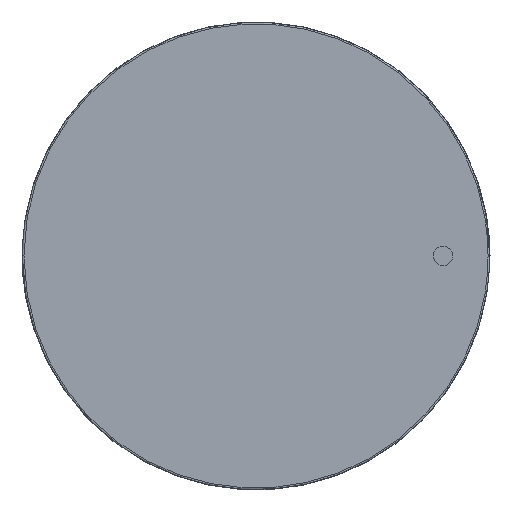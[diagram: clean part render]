
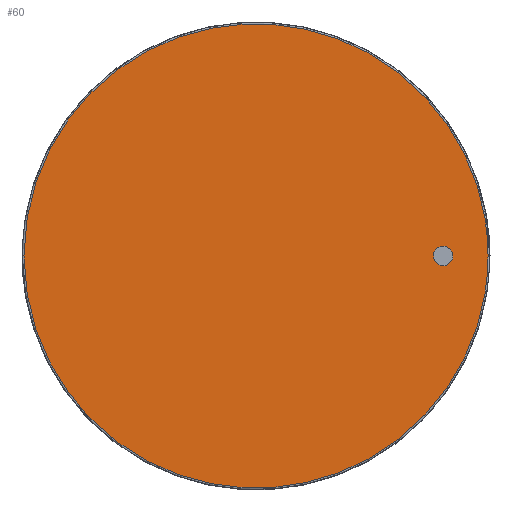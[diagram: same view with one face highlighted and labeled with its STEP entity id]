
A CAD part, top view. The second image highlights one B-rep face of the part: STEP entity #60.
In plain terms, the highlighted planar face has unit normal (0, 0, 1).
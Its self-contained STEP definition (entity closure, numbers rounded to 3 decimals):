
#15=FACE_BOUND($,#132,.T.);
#60=ADVANCED_FACE($,(#94,#15),#400,.T.);
#94=FACE_OUTER_BOUND($,#131,.T.);
#131=EDGE_LOOP($,(#228,#229));
#132=EDGE_LOOP($,(#230,#231));
#228=ORIENTED_EDGE($,*,*,#324,.T.);
#229=ORIENTED_EDGE($,*,*,#313,.F.);
#230=ORIENTED_EDGE($,*,*,#325,.T.);
#231=ORIENTED_EDGE($,*,*,#316,.F.);
#313=EDGE_CURVE($,#372,#373,#461,.T.);
#316=EDGE_CURVE($,#374,#375,#464,.T.);
#324=EDGE_CURVE($,#372,#373,#472,.T.);
#325=EDGE_CURVE($,#374,#375,#473,.T.);
#372=VERTEX_POINT($,#1224);
#373=VERTEX_POINT($,#1225);
#374=VERTEX_POINT($,#1226);
#375=VERTEX_POINT($,#1227);
#400=PLANE($,#588);
#461=(
BOUNDED_CURVE()
B_SPLINE_CURVE(2,(#1081,#1082,#1083,#1084,#1085),.UNSPECIFIED.,.F.,.F.)
B_SPLINE_CURVE_WITH_KNOTS((3,2,3),(-467.329,-350.497,-233.665),
.UNSPECIFIED.)
CURVE()
GEOMETRIC_REPRESENTATION_ITEM()
RATIONAL_B_SPLINE_CURVE((1.,0.707,1.,0.707,1.))
REPRESENTATION_ITEM($)
);
#464=(
BOUNDED_CURVE()
B_SPLINE_CURVE(2,(#1092,#1093,#1094,#1095,#1096),.UNSPECIFIED.,.F.,.F.)
B_SPLINE_CURVE_WITH_KNOTS((3,2,3),(-9.582,-4.791,0.),
.UNSPECIFIED.)
CURVE()
GEOMETRIC_REPRESENTATION_ITEM()
RATIONAL_B_SPLINE_CURVE((1.,0.707,1.,0.707,1.))
REPRESENTATION_ITEM($)
);
#472=(
BOUNDED_CURVE()
B_SPLINE_CURVE(2,(#1126,#1127,#1128,#1129,#1130),.UNSPECIFIED.,.F.,.F.)
B_SPLINE_CURVE_WITH_KNOTS((3,2,3),(0.,116.832,233.665),
.UNSPECIFIED.)
CURVE()
GEOMETRIC_REPRESENTATION_ITEM()
RATIONAL_B_SPLINE_CURVE((1.,0.707,1.,0.707,1.))
REPRESENTATION_ITEM($)
);
#473=(
BOUNDED_CURVE()
B_SPLINE_CURVE(2,(#1131,#1132,#1133,#1134,#1135),.UNSPECIFIED.,.F.,.F.)
B_SPLINE_CURVE_WITH_KNOTS((3,2,3),(9.582,14.373,19.164),
.UNSPECIFIED.)
CURVE()
GEOMETRIC_REPRESENTATION_ITEM()
RATIONAL_B_SPLINE_CURVE((1.,0.707,1.,0.707,1.))
REPRESENTATION_ITEM($)
);
#588=AXIS2_PLACEMENT_3D($,#1176,#602,$);
#602=DIRECTION($,(0.,0.,1.));
#1081=CARTESIAN_POINT($,(-74.378,0.,7.5));
#1082=CARTESIAN_POINT($,(-74.378,74.378,7.5));
#1083=CARTESIAN_POINT($,(0.,74.378,7.5));
#1084=CARTESIAN_POINT($,(74.378,74.378,7.5));
#1085=CARTESIAN_POINT($,(74.378,0.,7.5));
#1092=CARTESIAN_POINT($,(63.05,0.,7.5));
#1093=CARTESIAN_POINT($,(63.05,3.05,7.5));
#1094=CARTESIAN_POINT($,(60.,3.05,7.5));
#1095=CARTESIAN_POINT($,(56.95,3.05,7.5));
#1096=CARTESIAN_POINT($,(56.95,0.,7.5));
#1126=CARTESIAN_POINT($,(-74.378,0.,7.5));
#1127=CARTESIAN_POINT($,(-74.378,-74.378,7.5));
#1128=CARTESIAN_POINT($,(0.,-74.378,7.5));
#1129=CARTESIAN_POINT($,(74.378,-74.378,7.5));
#1130=CARTESIAN_POINT($,(74.378,0.,7.5));
#1131=CARTESIAN_POINT($,(63.05,0.,7.5));
#1132=CARTESIAN_POINT($,(63.05,-3.05,7.5));
#1133=CARTESIAN_POINT($,(60.,-3.05,7.5));
#1134=CARTESIAN_POINT($,(56.95,-3.05,7.5));
#1135=CARTESIAN_POINT($,(56.95,0.,7.5));
#1176=CARTESIAN_POINT($,(-75.865,-75.865,7.5));
#1224=CARTESIAN_POINT($,(-74.378,0.,7.5));
#1225=CARTESIAN_POINT($,(74.378,0.,7.5));
#1226=CARTESIAN_POINT($,(63.05,0.,7.5));
#1227=CARTESIAN_POINT($,(56.95,0.,7.5));
